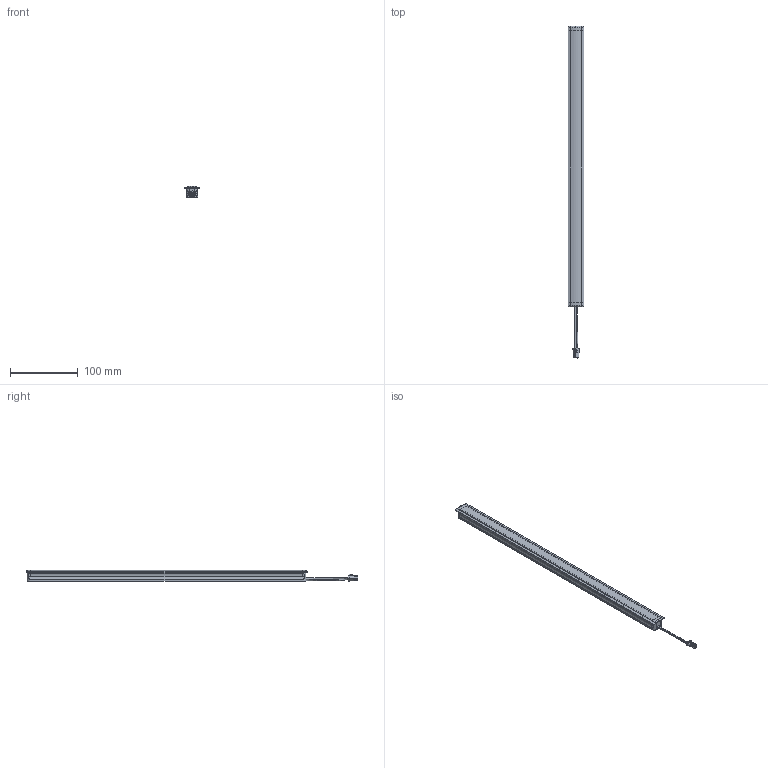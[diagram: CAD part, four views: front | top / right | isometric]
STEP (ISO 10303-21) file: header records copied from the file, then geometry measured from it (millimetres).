
FILE_DESCRIPTION (( 'STEP AP214' ), '1' );
FILE_NAME ('ZurigoCompleto.STEP', '2022-02-18T13:55:50', ( '' ), ( '' ), 'SwSTEP 2.0', 'SolidWorks 2021', '' );
FILE_SCHEMA (( 'AUTOMOTIVE_DESIGN' ));
Length unit declared in the file: millimetre
Products named in the file (1): ZurigoCompleto
Bounding box: 23.23 x 488.41 x 16.77 mm (x, y, z)
Surface area: 65811.4 mm2 (no closed solid volume)
Topology: 0 solids, 7 shells, 514 faces, 1342 edges, 828 vertices
Faces by surface type: plane 242, cylinder 186, bspline 49, sphere 21, torus 12, cone 4
Entity records: 27175 total; most frequent: CARTESIAN_POINT 9242, ORIENTED_EDGE 2656, DIRECTION 2416, EDGE_CURVE 1328, VERTEX_POINT 828, LINE 824, VECTOR 824, AXIS2_PLACEMENT_3D 796
